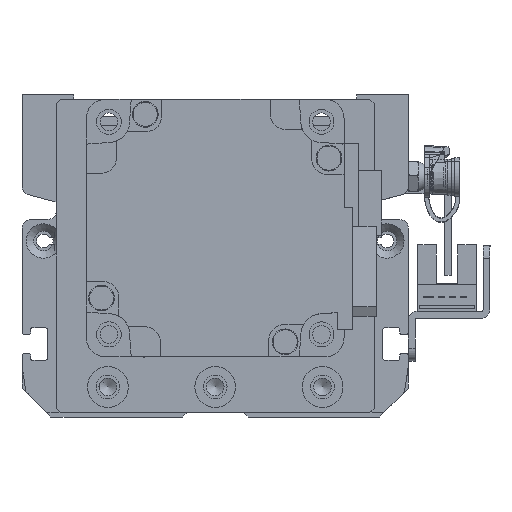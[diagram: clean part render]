
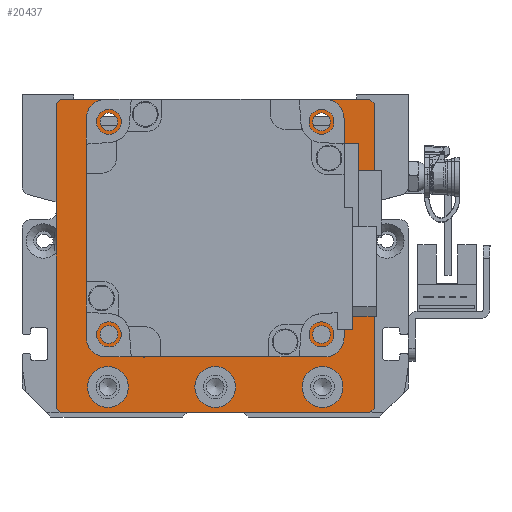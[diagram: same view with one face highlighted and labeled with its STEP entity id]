
A CAD part, left-side view. The second image highlights one B-rep face of the part: STEP entity #20437.
In plain terms, the highlighted planar face has unit normal (-1, 0, 0) as drawn and (0, 0, 1) by its records, which use the part's own axes.
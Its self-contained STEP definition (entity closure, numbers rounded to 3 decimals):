
#676=FACE_BOUND('',#3728,.T.);
#677=FACE_BOUND('',#3729,.T.);
#678=FACE_BOUND('',#3730,.T.);
#679=FACE_BOUND('',#3731,.T.);
#680=FACE_BOUND('',#3732,.T.);
#681=FACE_BOUND('',#3733,.T.);
#682=FACE_BOUND('',#3734,.T.);
#683=FACE_BOUND('',#3735,.T.);
#1085=PLANE('',#22599);
#2424=FACE_OUTER_BOUND('',#3727,.T.);
#3727=EDGE_LOOP('',(#17066,#17067,#17068,#17069,#17070,#17071,#17072,#17073));
#3728=EDGE_LOOP('',(#17074));
#3729=EDGE_LOOP('',(#17075));
#3730=EDGE_LOOP('',(#17076));
#3731=EDGE_LOOP('',(#17077));
#3732=EDGE_LOOP('',(#17078));
#3733=EDGE_LOOP('',(#17079));
#3734=EDGE_LOOP('',(#17080));
#3735=EDGE_LOOP('',(#17081));
#5333=LINE('',#33560,#7068);
#5339=LINE('',#33571,#7074);
#5346=LINE('',#33606,#7081);
#5349=LINE('',#33611,#7084);
#5355=LINE('',#33632,#7090);
#5358=LINE('',#33637,#7093);
#5359=LINE('',#33640,#7094);
#5367=LINE('',#33679,#7102);
#7068=VECTOR('',#26849,10.);
#7074=VECTOR('',#26857,10.);
#7081=VECTOR('',#26888,10.);
#7084=VECTOR('',#26893,10.);
#7090=VECTOR('',#26917,10.);
#7093=VECTOR('',#26922,10.);
#7094=VECTOR('',#26925,10.);
#7102=VECTOR('',#26975,10.);
#8435=CIRCLE('',#22568,4.75);
#8438=CIRCLE('',#22574,4.75);
#8441=CIRCLE('',#22580,4.75);
#8443=CIRCLE('',#22586,2.067);
#8444=CIRCLE('',#22588,2.067);
#8445=CIRCLE('',#22590,2.067);
#8446=CIRCLE('',#22592,2.067);
#8449=CIRCLE('',#22597,25.);
#9962=VERTEX_POINT('',#33558);
#9963=VERTEX_POINT('',#33559);
#9967=VERTEX_POINT('',#33569);
#9983=VERTEX_POINT('',#33605);
#9984=VERTEX_POINT('',#33609);
#9990=VERTEX_POINT('',#33631);
#9991=VERTEX_POINT('',#33635);
#9992=VERTEX_POINT('',#33639);
#9995=VERTEX_POINT('',#33648);
#9998=VERTEX_POINT('',#33659);
#10001=VERTEX_POINT('',#33670);
#10003=VERTEX_POINT('',#33681);
#10004=VERTEX_POINT('',#33685);
#10005=VERTEX_POINT('',#33689);
#10006=VERTEX_POINT('',#33693);
#10009=VERTEX_POINT('',#33702);
#12439=EDGE_CURVE('',#9962,#9963,#5333,.T.);
#12445=EDGE_CURVE('',#9962,#9967,#5339,.T.);
#12462=EDGE_CURVE('',#9983,#9967,#5346,.T.);
#12465=EDGE_CURVE('',#9983,#9984,#5349,.T.);
#12474=EDGE_CURVE('',#9990,#9984,#5355,.T.);
#12477=EDGE_CURVE('',#9990,#9991,#5358,.T.);
#12478=EDGE_CURVE('',#9992,#9991,#5359,.T.);
#12482=EDGE_CURVE('',#9995,#9995,#8435,.T.);
#12487=EDGE_CURVE('',#9998,#9998,#8438,.T.);
#12492=EDGE_CURVE('',#10001,#10001,#8441,.T.);
#12496=EDGE_CURVE('',#9992,#9963,#5367,.T.);
#12497=EDGE_CURVE('',#10003,#10003,#8443,.T.);
#12499=EDGE_CURVE('',#10004,#10004,#8444,.T.);
#12501=EDGE_CURVE('',#10005,#10005,#8445,.T.);
#12503=EDGE_CURVE('',#10006,#10006,#8446,.T.);
#12507=EDGE_CURVE('',#10009,#10009,#8449,.T.);
#17066=ORIENTED_EDGE('',*,*,#12439,.F.);
#17067=ORIENTED_EDGE('',*,*,#12445,.T.);
#17068=ORIENTED_EDGE('',*,*,#12462,.F.);
#17069=ORIENTED_EDGE('',*,*,#12465,.T.);
#17070=ORIENTED_EDGE('',*,*,#12474,.F.);
#17071=ORIENTED_EDGE('',*,*,#12477,.T.);
#17072=ORIENTED_EDGE('',*,*,#12478,.F.);
#17073=ORIENTED_EDGE('',*,*,#12496,.T.);
#17074=ORIENTED_EDGE('',*,*,#12482,.T.);
#17075=ORIENTED_EDGE('',*,*,#12487,.T.);
#17076=ORIENTED_EDGE('',*,*,#12492,.T.);
#17077=ORIENTED_EDGE('',*,*,#12497,.T.);
#17078=ORIENTED_EDGE('',*,*,#12499,.T.);
#17079=ORIENTED_EDGE('',*,*,#12501,.T.);
#17080=ORIENTED_EDGE('',*,*,#12503,.T.);
#17081=ORIENTED_EDGE('',*,*,#12507,.T.);
#20437=ADVANCED_FACE('',(#2424,#676,#677,#678,#679,#680,#681,#682,#683),
#1085,.T.);
#22568=AXIS2_PLACEMENT_3D('',#33649,#26935,#26936);
#22574=AXIS2_PLACEMENT_3D('',#33660,#26949,#26950);
#22580=AXIS2_PLACEMENT_3D('',#33671,#26963,#26964);
#22586=AXIS2_PLACEMENT_3D('',#33682,#26978,#26979);
#22588=AXIS2_PLACEMENT_3D('',#33686,#26983,#26984);
#22590=AXIS2_PLACEMENT_3D('',#33690,#26988,#26989);
#22592=AXIS2_PLACEMENT_3D('',#33694,#26993,#26994);
#22597=AXIS2_PLACEMENT_3D('',#33703,#27004,#27005);
#22599=AXIS2_PLACEMENT_3D('',#33707,#27010,#27011);
#26849=DIRECTION('',(0.707,-0.707,0.));
#26857=DIRECTION('',(-1.,0.,0.));
#26888=DIRECTION('',(0.707,0.707,0.));
#26893=DIRECTION('',(0.,-1.,0.));
#26917=DIRECTION('',(-0.707,0.707,0.));
#26922=DIRECTION('',(1.,0.,0.));
#26925=DIRECTION('',(-0.707,-0.707,0.));
#26935=DIRECTION('center_axis',(0.,0.,-1.));
#26936=DIRECTION('ref_axis',(1.,0.,0.));
#26949=DIRECTION('center_axis',(0.,0.,-1.));
#26950=DIRECTION('ref_axis',(1.,0.,0.));
#26963=DIRECTION('center_axis',(0.,0.,-1.));
#26964=DIRECTION('ref_axis',(1.,0.,0.));
#26975=DIRECTION('',(0.,1.,0.));
#26978=DIRECTION('center_axis',(0.,0.,-1.));
#26979=DIRECTION('ref_axis',(1.,0.,0.));
#26983=DIRECTION('center_axis',(0.,0.,-1.));
#26984=DIRECTION('ref_axis',(1.,0.,0.));
#26988=DIRECTION('center_axis',(0.,0.,-1.));
#26989=DIRECTION('ref_axis',(1.,0.,0.));
#26993=DIRECTION('center_axis',(0.,0.,-1.));
#26994=DIRECTION('ref_axis',(1.,0.,0.));
#27004=DIRECTION('center_axis',(0.,0.,-1.));
#27005=DIRECTION('ref_axis',(1.,0.,0.));
#27010=DIRECTION('center_axis',(0.,0.,1.));
#27011=DIRECTION('ref_axis',(1.,0.,0.));
#33558=CARTESIAN_POINT('',(36.,37.5,59.));
#33559=CARTESIAN_POINT('',(37.,36.5,59.));
#33560=CARTESIAN_POINT('',(36.625,36.875,59.));
#33569=CARTESIAN_POINT('',(-36.,37.5,59.));
#33571=CARTESIAN_POINT('',(37.,37.5,59.));
#33605=CARTESIAN_POINT('',(-37.,36.5,59.));
#33606=CARTESIAN_POINT('',(-36.625,36.875,59.));
#33609=CARTESIAN_POINT('',(-37.,-34.5,59.));
#33611=CARTESIAN_POINT('',(-37.,35.5,59.));
#33631=CARTESIAN_POINT('',(-36.,-35.5,59.));
#33632=CARTESIAN_POINT('',(-36.125,-35.375,59.));
#33635=CARTESIAN_POINT('',(36.,-35.5,59.));
#33637=CARTESIAN_POINT('',(-37.,-35.5,59.));
#33639=CARTESIAN_POINT('',(37.,-34.5,59.));
#33640=CARTESIAN_POINT('',(36.125,-35.375,59.));
#33648=CARTESIAN_POINT('',(-29.75,-29.5,59.));
#33649=CARTESIAN_POINT('Origin',(-25.,-29.5,59.));
#33659=CARTESIAN_POINT('',(-4.75,-29.5,59.));
#33660=CARTESIAN_POINT('Origin',(0.,-29.5,59.));
#33670=CARTESIAN_POINT('',(20.25,-29.5,59.));
#33671=CARTESIAN_POINT('Origin',(25.,-29.5,59.));
#33679=CARTESIAN_POINT('',(37.,-35.5,59.));
#33681=CARTESIAN_POINT('',(-26.816,-17.249,59.));
#33682=CARTESIAN_POINT('Origin',(-24.749,-17.249,59.));
#33685=CARTESIAN_POINT('',(-26.816,32.249,59.));
#33686=CARTESIAN_POINT('Origin',(-24.749,32.249,59.));
#33689=CARTESIAN_POINT('',(22.682,32.249,59.));
#33690=CARTESIAN_POINT('Origin',(24.749,32.249,59.));
#33693=CARTESIAN_POINT('',(22.682,-17.249,59.));
#33694=CARTESIAN_POINT('Origin',(24.749,-17.249,59.));
#33702=CARTESIAN_POINT('',(-25.,7.5,59.));
#33703=CARTESIAN_POINT('Origin',(0.,7.5,59.));
#33707=CARTESIAN_POINT('Origin',(0.,0.,
59.));
